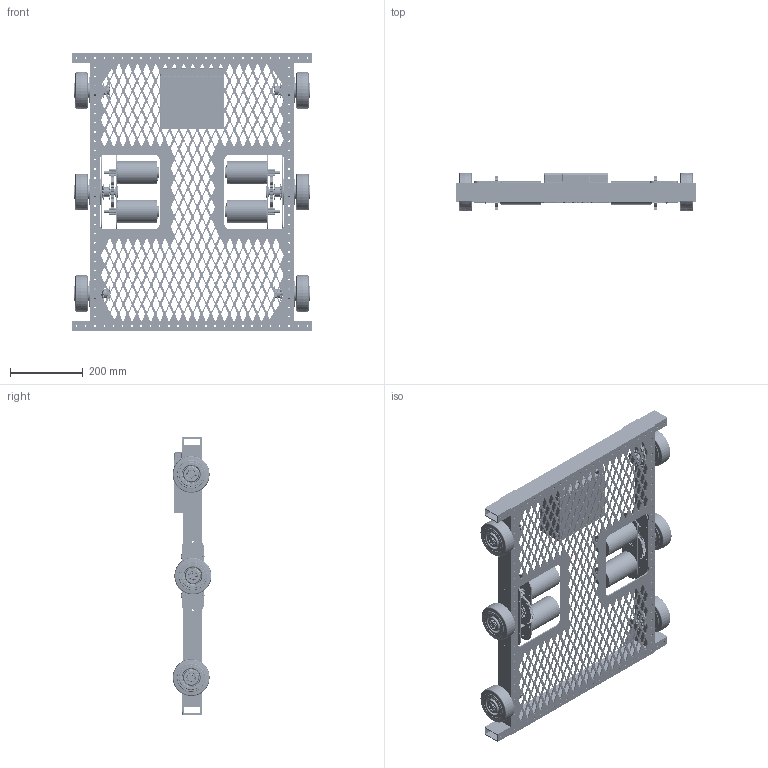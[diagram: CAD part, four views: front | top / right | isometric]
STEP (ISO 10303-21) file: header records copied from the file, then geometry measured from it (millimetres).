
FILE_DESCRIPTION (( 'STEP AP214' ), '1' );
FILE_NAME ('WestCoastDrive.STEP', '2016-01-09T01:06:15', ( '' ), ( '' ), 'SwSTEP 2.0', 'SolidWorks 2015', '' );
FILE_SCHEMA (( 'AUTOMOTIVE_DESIGN' ));
Length unit declared in the file: inch
Products named in the file (18): SprocketBlockWheel; Colson 4x1.5 Hex 217-4052; #35 12T Double Hub Sprocket .5 Hex 217-2658; 0.5 Hex ID 1.125OD Bearing R6 VEX-217-2734; WCP Side Bearing Block Kit VEX-217-3436; Gusset; CrossMember; Copy of DriveTube^WestCoastDrive; Battery; WestCoastDrive; Bellypan; CenterShaft; OuterShaft; Gearbox; 72.hex500.VP217-2716; 11.CIM.VP217-3107; CIM 217-2000; Plate1
Assembly tree (37 placements, depth 3):
  WestCoastDrive
    Copy of DriveTube^WestCoastDrive  x2
    CrossMember  x2
    Gusset  x4
    SprocketBlockWheel  x6
      WCP Side Bearing Block Kit VEX-217-3436
      0.5 Hex ID 1.125OD Bearing R6 VEX-217-2734
      #35 12T Double Hub Sprocket .5 Hex 217-2658
      Colson 4x1.5 Hex 217-4052
    Gearbox  x2
      Plate1
      CIM 217-2000
      11.CIM.VP217-3107
      0.5 Hex ID 1.125OD Bearing R6 VEX-217-2734
      72.hex500.VP217-2716
    OuterShaft  x4
    CenterShaft  x2
    Bellypan
    Battery
Bounding box: 660.4 x 106.22 x 762 mm (x, y, z)
Volume: 7523537.9 mm3; surface area: 2128827.6 mm2
Topology: 56 solids, 68 shells, 10121 faces, 27888 edges, 18200 vertices
Faces by surface type: cylinder 4868, plane 2915, bspline 1250, torus 552, cone 536
Entity records: 206645 total; most frequent: CARTESIAN_POINT 66990, ORIENTED_EDGE 29152, DIRECTION 28749, EDGE_CURVE 14580, AXIS2_PLACEMENT_3D 10392, VERTEX_POINT 9644, VECTOR 7965, LINE 7965
